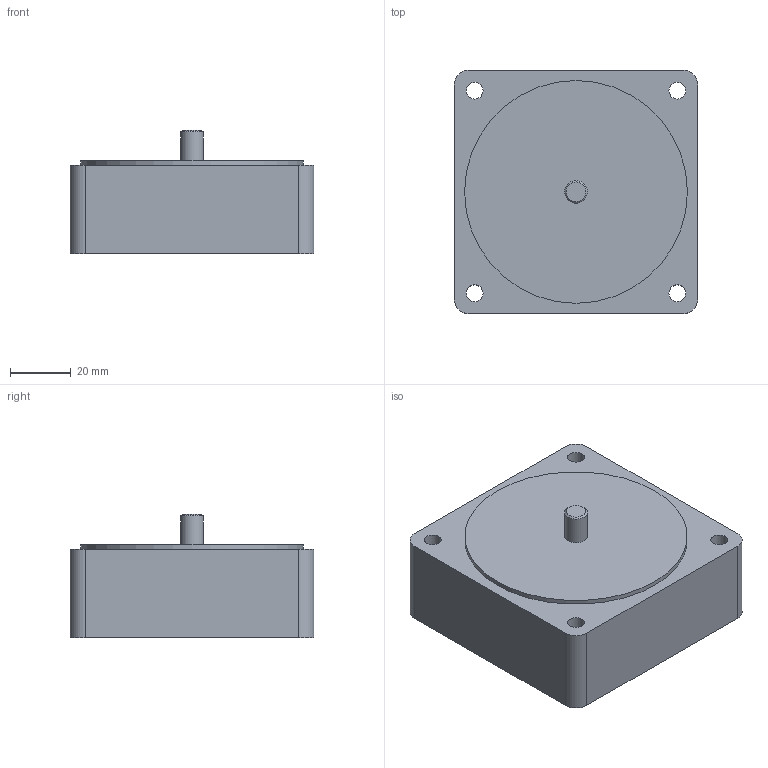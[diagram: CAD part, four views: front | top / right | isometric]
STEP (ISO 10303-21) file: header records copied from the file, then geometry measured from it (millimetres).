
FILE_DESCRIPTION (( 'STEP AP203' ), '1' );
FILE_NAME ('8XD10GG.STEP', '2022-09-20T03:07:47', ( '' ), ( '' ), 'SwSTEP 2.0', 'SolidWorks 2018', '' );
FILE_SCHEMA (( 'CONFIG_CONTROL_DESIGN' ));
Length unit declared in the file: millimetre
Products named in the file (2): 8XD10GG
Bounding box: 80 x 80 x 40.5 mm (x, y, z)
Volume: 176364.2 mm3; surface area: 24863.9 mm2
Topology: 1 solids, 1 shells, 21 faces, 47 edges, 31 vertices
Faces by surface type: cylinder 11, plane 9, cone 1
Full cylindrical faces by diameter (mm): 5.5 x4, 7.49 x1, 73.1 x2
Entity records: 727 total; most frequent: DIRECTION 108, CARTESIAN_POINT 93, ORIENTED_EDGE 78, AXIS2_PLACEMENT_3D 46, EDGE_LOOP 40, EDGE_CURVE 39, VERTEX_POINT 31, FACE_OUTER_BOUND 28
